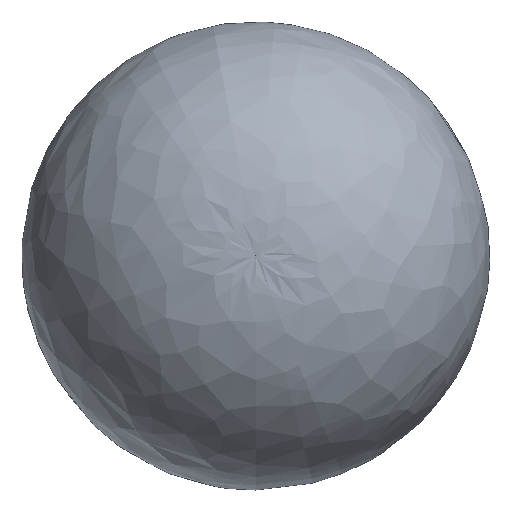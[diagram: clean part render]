
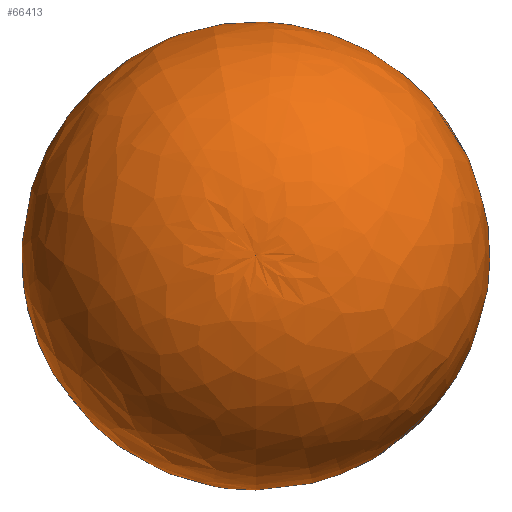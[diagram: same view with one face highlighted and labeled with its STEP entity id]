
A CAD part, top view. The second image highlights one B-rep face of the part: STEP entity #66413.
In plain terms, the highlighted free-form (B-spline) face has degree [2, 2] with [5, 9] control points.
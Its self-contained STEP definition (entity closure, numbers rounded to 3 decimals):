
#1026=(
BOUNDED_SURFACE()
B_SPLINE_SURFACE(2,2,((#194934,#194935,#194936,#194937,#194938,#194939,
#194940,#194941,#194942),(#194943,#194944,#194945,#194946,#194947,#194948,
#194949,#194950,#194951),(#194952,#194953,#194954,#194955,#194956,#194957,
#194958,#194959,#194960),(#194961,#194962,#194963,#194964,#194965,#194966,
#194967,#194968,#194969),(#194970,#194971,#194972,#194973,#194974,#194975,
#194976,#194977,#194978)),.UNSPECIFIED.,.F.,.T.,.F.)
B_SPLINE_SURFACE_WITH_KNOTS((3,2,3),(3,2,2,2,3),(-1.665,-0.309,
1.047),(-3.142,-1.571,0.,1.571,
3.142),.UNSPECIFIED.)
GEOMETRIC_REPRESENTATION_ITEM()
RATIONAL_B_SPLINE_SURFACE(((1.,0.707,1.,0.707,1.,
0.707,1.,0.707,1.),(0.779,0.551,
0.779,0.551,0.779,0.551,
0.779,0.551,0.779),(1.,0.707,
1.,0.707,1.,0.707,1.,0.707,1.),(0.779,
0.551,0.779,0.551,0.779,
0.551,0.779,0.551,0.779),
(1.,0.707,1.,0.707,1.,0.707,1.,0.707,
1.)))
REPRESENTATION_ITEM('')
SURFACE()
);
#1096=(
BOUNDED_CURVE()
B_SPLINE_CURVE(2,(#194982,#194983,#194984,#194985,#194986),
 .UNSPECIFIED.,.F.,.F.)
B_SPLINE_CURVE_WITH_KNOTS((3,2,3),(-1.047,0.309,
1.665),.UNSPECIFIED.)
CURVE()
GEOMETRIC_REPRESENTATION_ITEM()
RATIONAL_B_SPLINE_CURVE((1.,0.779,1.,0.779,1.))
REPRESENTATION_ITEM('')
);
#18921=FACE_OUTER_BOUND('',#23865,.T.);
#23865=EDGE_LOOP('',(#61929,#61930,#61931));
#26938=CIRCLE('',#73452,1105.);
#33315=VERTEX_POINT('',#194979);
#33316=VERTEX_POINT('',#194981);
#42854=EDGE_CURVE('',#33315,#33315,#26938,.T.);
#42855=EDGE_CURVE('',#33315,#33316,#1096,.T.);
#61929=ORIENTED_EDGE('',*,*,#42854,.F.);
#61930=ORIENTED_EDGE('',*,*,#42855,.T.);
#61931=ORIENTED_EDGE('',*,*,#42855,.F.);
#66413=ADVANCED_FACE('',(#18921),#1026,.F.);
#73452=AXIS2_PLACEMENT_3D('',#194980,#90895,#90896);
#90895=DIRECTION('center_axis',(0.,0.,-1.));
#90896=DIRECTION('ref_axis',(0.,1.,0.));
#194934=CARTESIAN_POINT('Ctrl Pts',(0.,0.,2346.749));
#194935=CARTESIAN_POINT('Ctrl Pts',(0.,0.,
2346.749));
#194936=CARTESIAN_POINT('Ctrl Pts',(0.,0.,2346.749));
#194937=CARTESIAN_POINT('Ctrl Pts',(0.,0.,
2346.749));
#194938=CARTESIAN_POINT('Ctrl Pts',(0.,0.,2346.749));
#194939=CARTESIAN_POINT('Ctrl Pts',(0.,0.,
2346.749));
#194940=CARTESIAN_POINT('Ctrl Pts',(0.,0.,2346.749));
#194941=CARTESIAN_POINT('Ctrl Pts',(0.,0.,
2346.749));
#194942=CARTESIAN_POINT('Ctrl Pts',(0.,0.,2346.749));
#194943=CARTESIAN_POINT('Ctrl Pts',(0.,-1491.49,2487.703));
#194944=CARTESIAN_POINT('Ctrl Pts',(-1491.49,-1491.49,
2487.703));
#194945=CARTESIAN_POINT('Ctrl Pts',(-1491.49,0.,2487.703));
#194946=CARTESIAN_POINT('Ctrl Pts',(-1491.49,1491.49,
2487.703));
#194947=CARTESIAN_POINT('Ctrl Pts',(0.,1491.49,2487.703));
#194948=CARTESIAN_POINT('Ctrl Pts',(1491.49,1491.49,2487.703));
#194949=CARTESIAN_POINT('Ctrl Pts',(1491.49,0.,2487.703));
#194950=CARTESIAN_POINT('Ctrl Pts',(1491.49,-1491.49,
2487.703));
#194951=CARTESIAN_POINT('Ctrl Pts',(0.,-1491.49,2487.703));
#194952=CARTESIAN_POINT('Ctrl Pts',(0.,-1946.957,1060.482));
#194953=CARTESIAN_POINT('Ctrl Pts',(-1946.957,-1946.957,
1060.482));
#194954=CARTESIAN_POINT('Ctrl Pts',(-1946.957,0.,1060.482));
#194955=CARTESIAN_POINT('Ctrl Pts',(-1946.957,1946.957,
1060.482));
#194956=CARTESIAN_POINT('Ctrl Pts',(0.,1946.957,1060.482));
#194957=CARTESIAN_POINT('Ctrl Pts',(1946.957,1946.957,1060.482));
#194958=CARTESIAN_POINT('Ctrl Pts',(1946.957,0.,1060.482));
#194959=CARTESIAN_POINT('Ctrl Pts',(1946.957,-1946.957,
1060.482));
#194960=CARTESIAN_POINT('Ctrl Pts',(0.,-1946.957,1060.482));
#194961=CARTESIAN_POINT('Ctrl Pts',(0.,-2402.423,-366.739));
#194962=CARTESIAN_POINT('Ctrl Pts',(-2402.423,-2402.423,
-366.739));
#194963=CARTESIAN_POINT('Ctrl Pts',(-2402.423,0.,-366.739));
#194964=CARTESIAN_POINT('Ctrl Pts',(-2402.423,2402.423,
-366.739));
#194965=CARTESIAN_POINT('Ctrl Pts',(0.,2402.423,-366.739));
#194966=CARTESIAN_POINT('Ctrl Pts',(2402.423,2402.423,-366.739));
#194967=CARTESIAN_POINT('Ctrl Pts',(2402.423,0.,-366.739));
#194968=CARTESIAN_POINT('Ctrl Pts',(2402.423,-2402.423,
-366.739));
#194969=CARTESIAN_POINT('Ctrl Pts',(0.,-2402.423,-366.739));
#194970=CARTESIAN_POINT('Ctrl Pts',(0.,-1105.,-1115.807));
#194971=CARTESIAN_POINT('Ctrl Pts',(-1105.,-1105.,
-1115.807));
#194972=CARTESIAN_POINT('Ctrl Pts',(-1105.,0.,-1115.807));
#194973=CARTESIAN_POINT('Ctrl Pts',(-1105.,1105.,
-1115.807));
#194974=CARTESIAN_POINT('Ctrl Pts',(0.,1105.,-1115.807));
#194975=CARTESIAN_POINT('Ctrl Pts',(1105.,1105.,-1115.807));
#194976=CARTESIAN_POINT('Ctrl Pts',(1105.,0.,-1115.807));
#194977=CARTESIAN_POINT('Ctrl Pts',(1105.,-1105.,
-1115.807));
#194978=CARTESIAN_POINT('Ctrl Pts',(0.,-1105.,-1115.807));
#194979=CARTESIAN_POINT('',(0.,-1105.,-1115.807));
#194980=CARTESIAN_POINT('Origin',(0.,0.,-1115.807));
#194981=CARTESIAN_POINT('',(0.,0.,2346.749));
#194982=CARTESIAN_POINT('Ctrl Pts',(0.,-1105.,-1115.807));
#194983=CARTESIAN_POINT('Ctrl Pts',(0.,-2402.423,-366.739));
#194984=CARTESIAN_POINT('Ctrl Pts',(0.,-1946.957,1060.482));
#194985=CARTESIAN_POINT('Ctrl Pts',(0.,-1491.49,2487.703));
#194986=CARTESIAN_POINT('Ctrl Pts',(0.,0.,2346.749));
